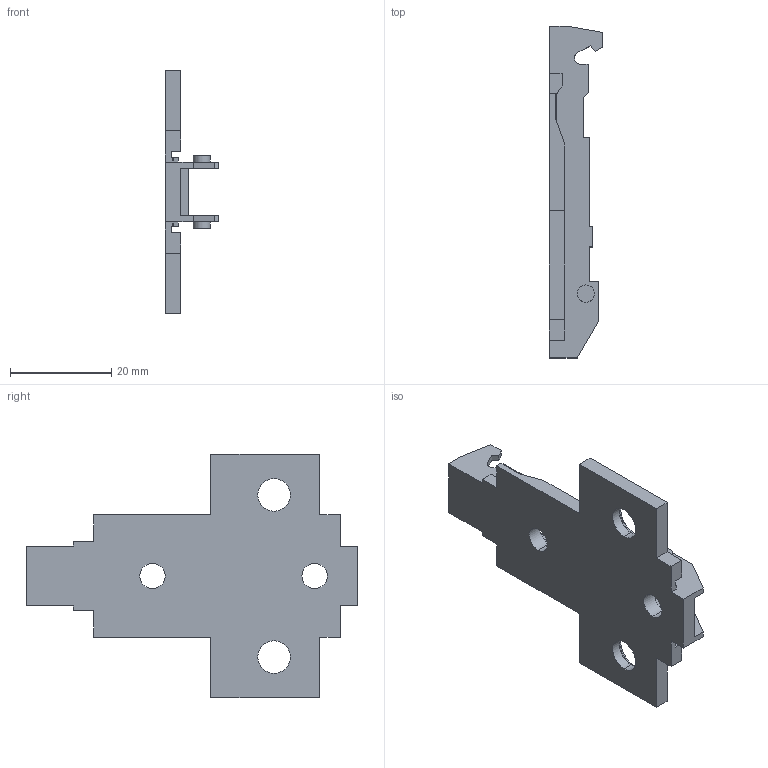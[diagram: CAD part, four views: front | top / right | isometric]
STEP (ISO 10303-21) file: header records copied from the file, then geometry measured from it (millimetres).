
FILE_DESCRIPTION (( 'STEP AP214' ), '1' );
FILE_NAME ('1D_Kreuzmontageplatte 28_32 Euro_0.step', '2010-11-18T10:18:23', ( 'grass' ), ( '' ), 'SwSTEP 2.0', 'SolidWorks 2010', '' );
FILE_SCHEMA (( 'AUTOMOTIVE_DESIGN' ));
Length unit declared in the file: millimetre
Products named in the file (1): 1D_Kreuzmontageplatte 28_32 Euro_0
Bounding box: 10.5 x 65.5 x 48 mm (x, y, z)
Volume: 5915 mm3; surface area: 6091.1 mm2
Topology: 1 solids, 1 shells, 108 faces, 304 edges, 200 vertices
Faces by surface type: plane 82, cylinder 22, cone 4
Entity records: 3498 total; most frequent: CARTESIAN_POINT 613, ORIENTED_EDGE 608, DIRECTION 566, EDGE_CURVE 304, VECTOR 260, LINE 260, VERTEX_POINT 200, AXIS2_PLACEMENT_3D 153
